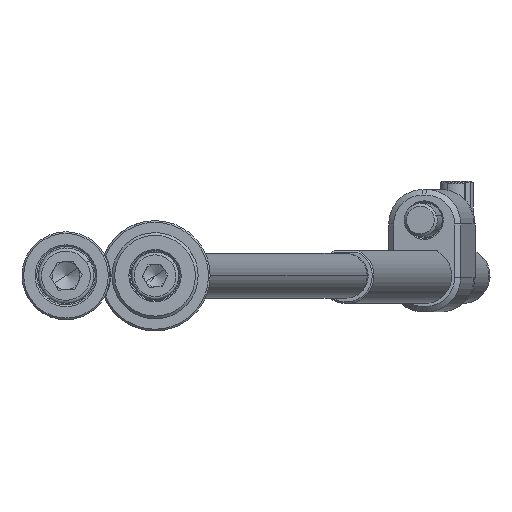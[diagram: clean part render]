
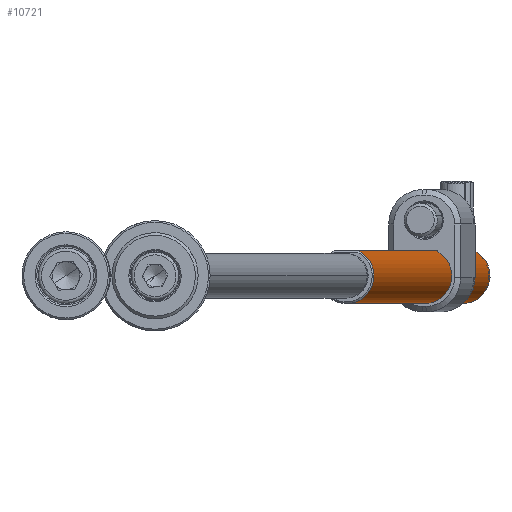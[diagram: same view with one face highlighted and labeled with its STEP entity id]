
A CAD part, front view. The second image highlights one B-rep face of the part: STEP entity #10721.
In plain terms, the highlighted cylindrical face has radius 5 mm (diameter 10 mm), a partial arc.
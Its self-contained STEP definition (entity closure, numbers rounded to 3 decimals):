
#299 = EDGE_CURVE ( 'NONE', #1186, #8155, #11060, .T. ) ;
#383 = VERTEX_POINT ( 'NONE', #1292 ) ;
#615 = DIRECTION ( 'NONE',  ( 0., 0., 1. ) ) ;
#660 = CARTESIAN_POINT ( 'NONE',  ( 4.5, -2.179, 200. ) ) ;
#748 = CARTESIAN_POINT ( 'NONE',  ( 4.5, -2.179, 12.062 ) ) ;
#870 = DIRECTION ( 'NONE',  ( 1., 0., 0. ) ) ;
#1186 = VERTEX_POINT ( 'NONE', #11314 ) ;
#1292 = CARTESIAN_POINT ( 'NONE',  ( -5., 0., 199.7 ) ) ;
#1473 = VERTEX_POINT ( 'NONE', #11231 ) ;
#1594 = CYLINDRICAL_SURFACE ( 'NONE', #7859, 5. ) ;
#1811 = CARTESIAN_POINT ( 'NONE',  ( 4.014, -2.982, 9.617 ) ) ;
#1923 = DIRECTION ( 'NONE',  ( 0., 0., -1. ) ) ;
#1936 = DIRECTION ( 'NONE',  ( 0., 0., -1. ) ) ;
#2665 = CARTESIAN_POINT ( 'NONE',  ( 4., -3., 9.809 ) ) ;
#2791 = CARTESIAN_POINT ( 'NONE',  ( 0., 0., 200. ) ) ;
#2798 = CARTESIAN_POINT ( 'NONE',  ( 4.259, -2.621, 11.47 ) ) ;
#2937 = CARTESIAN_POINT ( 'NONE',  ( -5., 0., 200. ) ) ;
#3256 = EDGE_CURVE ( 'NONE', #6096, #1473, #12562, .T. ) ;
#3812 = CARTESIAN_POINT ( 'NONE',  ( 4.202, -2.711, 8.701 ) ) ;
#4029 = CARTESIAN_POINT ( 'NONE',  ( 4.068, -2.908, 9.236 ) ) ;
#4034 = CARTESIAN_POINT ( 'NONE',  ( -5., 0., 0.3 ) ) ;
#4134 = EDGE_CURVE ( 'NONE', #8155, #6096, #9803, .T. ) ;
#4522 = AXIS2_PLACEMENT_3D ( 'NONE', #8465, #1923, #870 ) ;
#4644 = CIRCLE ( 'NONE', #13142, 5. ) ;
#4783 = ORIENTED_EDGE ( 'NONE', *, *, #299, .F. ) ;
#4823 = VECTOR ( 'NONE', #11632, 1000. ) ;
#4889 = ORIENTED_EDGE ( 'NONE', *, *, #10418, .T. ) ;
#4981 = CARTESIAN_POINT ( 'NONE',  ( 4.107, -2.852, 9.051 ) ) ;
#5001 = DIRECTION ( 'NONE',  ( 1., 0., 0. ) ) ;
#5336 = ORIENTED_EDGE ( 'NONE', *, *, #14131, .T. ) ;
#5471 = ORIENTED_EDGE ( 'NONE', *, *, #4134, .F. ) ;
#5630 = VECTOR ( 'NONE', #1936, 1000. ) ;
#5772 = DIRECTION ( 'NONE',  ( 0., 0., -1. ) ) ;
#5790 = CARTESIAN_POINT ( 'NONE',  ( 4.5, -2.179, 12.062 ) ) ;
#5906 = DIRECTION ( 'NONE',  ( 0., 0., -1. ) ) ;
#6096 = VERTEX_POINT ( 'NONE', #7445 ) ;
#6668 = EDGE_CURVE ( 'NONE', #383, #12405, #12700, .T. ) ;
#7252 = CARTESIAN_POINT ( 'NONE',  ( 4.5, -2.179, 7.938 ) ) ;
#7420 = CARTESIAN_POINT ( 'NONE',  ( 0., 0., 0.3 ) ) ;
#7445 = CARTESIAN_POINT ( 'NONE',  ( 4.5, -2.179, 7.938 ) ) ;
#7603 = EDGE_LOOP ( 'NONE', ( #5336, #7609, #4889, #11750, #5471, #4783 ) ) ;
#7609 = ORIENTED_EDGE ( 'NONE', *, *, #6668, .T. ) ;
#7859 = AXIS2_PLACEMENT_3D ( 'NONE', #2791, #5906, #10471 ) ;
#7915 = VECTOR ( 'NONE', #5772, 1000. ) ;
#8114 = CARTESIAN_POINT ( 'NONE',  ( 4.069, -2.906, 10.771 ) ) ;
#8155 = VERTEX_POINT ( 'NONE', #5790 ) ;
#8330 = CARTESIAN_POINT ( 'NONE',  ( 4.438, -2.307, 11.926 ) ) ;
#8465 = CARTESIAN_POINT ( 'NONE',  ( 0., 0., 199.7 ) ) ;
#8981 = CARTESIAN_POINT ( 'NONE',  ( 4.5, -2.179, 200. ) ) ;
#9263 = CARTESIAN_POINT ( 'NONE',  ( 4.376, -2.421, 11.781 ) ) ;
#9405 = CARTESIAN_POINT ( 'NONE',  ( 4.203, -2.709, 11.303 ) ) ;
#9803 = B_SPLINE_CURVE_WITH_KNOTS ( 'NONE', 3,
 ( #748, #8330, #9263, #2798, #9405, #13654, #8114, #13798, #12498, #2665, #1811, #4029, #4981, #3812, #11570, #12576, #12706, #7252 ),
 .UNSPECIFIED., .F., .F.,
 ( 4, 2, 2, 2, 2, 2, 2, 2, 4 ),
 ( 0., 0.001, 0.001, 0.002, 0.002, 0.003, 0.003, 0.004, 0.005 ),
 .UNSPECIFIED. ) ;
#10418 = EDGE_CURVE ( 'NONE', #12405, #1473, #4644, .T. ) ;
#10471 = DIRECTION ( 'NONE',  ( -1., 0., 0. ) ) ;
#10721 = ADVANCED_FACE ( 'NONE', ( #11344 ), #1594, .T. ) ;
#11060 = LINE ( 'NONE', #8981, #7915 ) ;
#11231 = CARTESIAN_POINT ( 'NONE',  ( 4.5, -2.179, 0.3 ) ) ;
#11314 = CARTESIAN_POINT ( 'NONE',  ( 4.5, -2.179, 199.7 ) ) ;
#11344 = FACE_OUTER_BOUND ( 'NONE', #7603, .T. ) ;
#11570 = CARTESIAN_POINT ( 'NONE',  ( 4.258, -2.623, 8.532 ) ) ;
#11632 = DIRECTION ( 'NONE',  ( 0., 0., -1. ) ) ;
#11750 = ORIENTED_EDGE ( 'NONE', *, *, #3256, .F. ) ;
#12405 = VERTEX_POINT ( 'NONE', #4034 ) ;
#12498 = CARTESIAN_POINT ( 'NONE',  ( 4., -3., 10.198 ) ) ;
#12562 = LINE ( 'NONE', #660, #4823 ) ;
#12576 = CARTESIAN_POINT ( 'NONE',  ( 4.376, -2.422, 8.22 ) ) ;
#12700 = LINE ( 'NONE', #2937, #5630 ) ;
#12706 = CARTESIAN_POINT ( 'NONE',  ( 4.438, -2.308, 8.074 ) ) ;
#13142 = AXIS2_PLACEMENT_3D ( 'NONE', #7420, #615, #5001 ) ;
#13251 = CIRCLE ( 'NONE', #4522, 5. ) ;
#13654 = CARTESIAN_POINT ( 'NONE',  ( 4.108, -2.851, 10.952 ) ) ;
#13798 = CARTESIAN_POINT ( 'NONE',  ( 4.015, -2.98, 10.396 ) ) ;
#14131 = EDGE_CURVE ( 'NONE', #1186, #383, #13251, .T. ) ;
